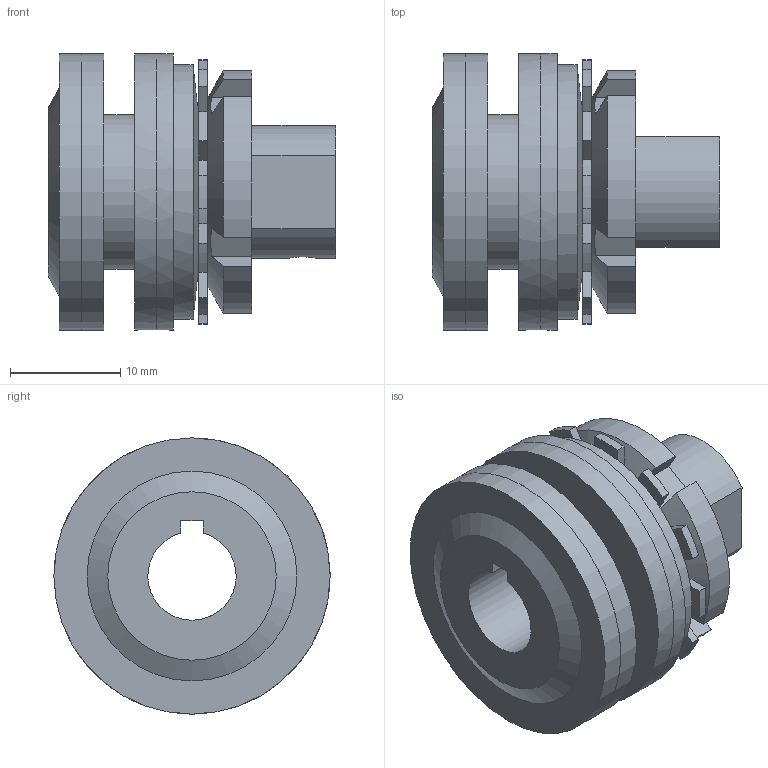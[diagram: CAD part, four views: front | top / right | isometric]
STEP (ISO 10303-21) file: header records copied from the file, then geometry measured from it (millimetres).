
FILE_DESCRIPTION( ( 'Unknown' ), '1' );
FILE_NAME( 'R:/UTP/progettazione/3 D/SPECIALI - FINITI/DF/COMPLESSIVI/DF/00-25 DF GT d8.stp', 'Unknown', ( 'Unknown' ), ( 'Unknown' ), 'PSStep 10.1', 'Unknown', ' ' );
FILE_SCHEMA( ( 'AUTOMOTIVE_DESIGN { 1 0 10303 214 1 1 1 1 }' ) );
Length unit declared in the file: millimetre
Products named in the file (1): 1
Bounding box: 26 x 25 x 25 mm (x, y, z)
Volume: 6083.9 mm3; surface area: 5573.7 mm2
Topology: 1 solids, 5 shells, 144 faces, 353 edges, 227 vertices
Faces by surface type: plane 83, cylinder 55, cone 6
Full cylindrical faces by diameter (mm): 2.459 x1, 12 x1, 14 x3, 23 x1, 24.99 x2, 25 x2
Entity records: 5931 total; most frequent: CARTESIAN_POINT 838, DIRECTION 720, ORIENTED_EDGE 654, EDGE_CURVE 327, PRESENTATION_STYLE_ASSIGNMENT 289, COLOUR_RGB 289, AXIS2_PLACEMENT_3D 267, VERTEX_POINT 215
